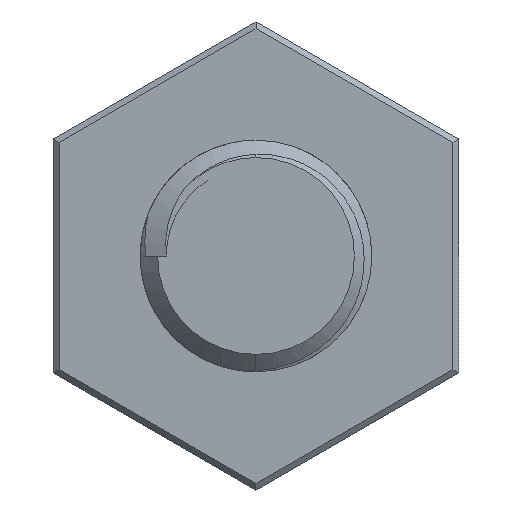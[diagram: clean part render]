
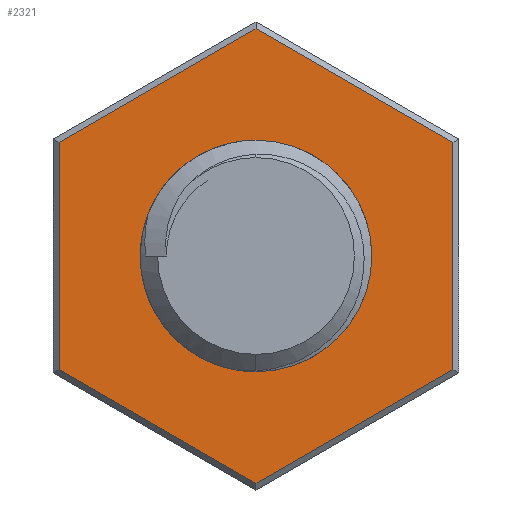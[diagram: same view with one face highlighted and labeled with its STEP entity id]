
A CAD part, front view. The second image highlights one B-rep face of the part: STEP entity #2321.
In plain terms, the highlighted planar face has unit normal (0, -1, 0).
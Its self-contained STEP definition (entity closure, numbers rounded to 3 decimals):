
#200 = DIRECTION ( 'NONE',  ( 0.866, 0., 0.5 ) ) ;
#201 = VECTOR ( 'NONE', #200, 1000. ) ;
#212 = CARTESIAN_POINT ( 'NONE',  ( 3.45, -2.5, -1.934 ) ) ;
#253 = CARTESIAN_POINT ( 'NONE',  ( 0., -2.5, -3.926 ) ) ;
#255 = DIRECTION ( 'NONE',  ( -0.866, 0., 0.5 ) ) ;
#256 = VECTOR ( 'NONE', #255, 1000. ) ;
#257 = CARTESIAN_POINT ( 'NONE',  ( -0.05, -2.5, 3.955 ) ) ;
#258 = LINE ( 'NONE', #257, #256 ) ;
#261 = DIRECTION ( 'NONE',  ( 0.866, 0., -0.5 ) ) ;
#264 = VECTOR ( 'NONE', #261, 1000. ) ;
#265 = CARTESIAN_POINT ( 'NONE',  ( 0.05, -2.5, -3.955 ) ) ;
#266 = LINE ( 'NONE', #265, #264 ) ;
#281 = CARTESIAN_POINT ( 'NONE',  ( 0., -2.5, -1.75 ) ) ;
#304 = LINE ( 'NONE', #212, #201 ) ;
#333 = CARTESIAN_POINT ( 'NONE',  ( 3.4, -2.5, -1.963 ) ) ;
#424 = DIRECTION ( 'NONE',  ( -0.866, 0., -0.5 ) ) ;
#425 = VECTOR ( 'NONE', #424, 1000. ) ;
#426 = CARTESIAN_POINT ( 'NONE',  ( -3.45, -2.5, 1.934 ) ) ;
#427 = LINE ( 'NONE', #426, #425 ) ;
#428 = CARTESIAN_POINT ( 'NONE',  ( -3.4, -2.5, -1.963 ) ) ;
#429 = DIRECTION ( 'NONE',  ( 0., 0., -1. ) ) ;
#430 = DIRECTION ( 'NONE',  ( 0., 1., 0. ) ) ;
#431 = CARTESIAN_POINT ( 'NONE',  ( 0., -2.5, 0. ) ) ;
#432 = AXIS2_PLACEMENT_3D ( 'NONE', #431, #430, #429 ) ;
#433 = CIRCLE ( 'NONE', #432, 1.75 ) ;
#434 = DIRECTION ( 'NONE',  ( 0., 0., -1. ) ) ;
#435 = VECTOR ( 'NONE', #434, 1000. ) ;
#436 = CARTESIAN_POINT ( 'NONE',  ( -3.4, -2.5, -2.021 ) ) ;
#437 = CARTESIAN_POINT ( 'NONE',  ( -3.4, -2.5, 1.963 ) ) ;
#447 = CARTESIAN_POINT ( 'NONE',  ( 0., -2.5, 3.926 ) ) ;
#458 = DIRECTION ( 'NONE',  ( 0., 0., 1. ) ) ;
#459 = VECTOR ( 'NONE', #458, 1000. ) ;
#460 = CARTESIAN_POINT ( 'NONE',  ( 3.4, -2.5, 2.021 ) ) ;
#467 = LINE ( 'NONE', #460, #459 ) ;
#521 = LINE ( 'NONE', #436, #435 ) ;
#1123 = CARTESIAN_POINT ( 'NONE',  ( 3.4, -2.5, 1.963 ) ) ;
#1415 = FACE_OUTER_BOUND ( 'NONE', #2073, .T. ) ;
#1416 = AXIS2_PLACEMENT_3D ( 'NONE', #1525, #1442, #1441 ) ;
#1418 = PLANE ( 'NONE',  #1416 ) ;
#1420 = FACE_BOUND ( 'NONE', #2180, .T. ) ;
#1441 = DIRECTION ( 'NONE',  ( 0., 0., -1. ) ) ;
#1442 = DIRECTION ( 'NONE',  ( 0., -1., 0. ) ) ;
#1525 = CARTESIAN_POINT ( 'NONE',  ( 0., -2.5, 4.041 ) ) ;
#1856 = EDGE_CURVE ( 'NONE', #2015, #1857, #2947, .T. ) ;
#1857 = VERTEX_POINT ( 'NONE', #2906 ) ;
#1906 = ORIENTED_EDGE ( 'NONE', *, *, #2056, .T. ) ;
#2015 = VERTEX_POINT ( 'NONE', #281 ) ;
#2053 = ORIENTED_EDGE ( 'NONE', *, *, #2055, .T. ) ;
#2054 = ORIENTED_EDGE ( 'NONE', *, *, #2163, .T. ) ;
#2055 = EDGE_CURVE ( 'NONE', #2172, #2061, #266, .T. ) ;
#2056 = EDGE_CURVE ( 'NONE', #2296, #2183, #258, .T. ) ;
#2061 = VERTEX_POINT ( 'NONE', #253 ) ;
#2062 = VERTEX_POINT ( 'NONE', #333 ) ;
#2073 = EDGE_LOOP ( 'NONE', ( #2185, #2297, #1906, #2178, #2054, #2053 ) ) ;
#2077 = EDGE_CURVE ( 'NONE', #2061, #2062, #304, .T. ) ;
#2163 = EDGE_CURVE ( 'NONE', #2179, #2172, #521, .T. ) ;
#2165 = ORIENTED_EDGE ( 'NONE', *, *, #1856, .T. ) ;
#2168 = EDGE_CURVE ( 'NONE', #1857, #2015, #433, .T. ) ;
#2170 = EDGE_CURVE ( 'NONE', #2183, #2179, #427, .T. ) ;
#2172 = VERTEX_POINT ( 'NONE', #428 ) ;
#2173 = ORIENTED_EDGE ( 'NONE', *, *, #2168, .T. ) ;
#2178 = ORIENTED_EDGE ( 'NONE', *, *, #2170, .T. ) ;
#2179 = VERTEX_POINT ( 'NONE', #437 ) ;
#2180 = EDGE_LOOP ( 'NONE', ( #2165, #2173 ) ) ;
#2183 = VERTEX_POINT ( 'NONE', #447 ) ;
#2185 = ORIENTED_EDGE ( 'NONE', *, *, #2077, .T. ) ;
#2186 = EDGE_CURVE ( 'NONE', #2062, #2296, #467, .T. ) ;
#2296 = VERTEX_POINT ( 'NONE', #1123 ) ;
#2297 = ORIENTED_EDGE ( 'NONE', *, *, #2186, .T. ) ;
#2321 = ADVANCED_FACE ( 'NONE', ( #1415, #1420 ), #1418, .T. ) ;
#2903 = DIRECTION ( 'NONE',  ( 0., 0., -1. ) ) ;
#2904 = DIRECTION ( 'NONE',  ( 0., 1., 0. ) ) ;
#2906 = CARTESIAN_POINT ( 'NONE',  ( 0., -2.5, 1.75 ) ) ;
#2909 = CARTESIAN_POINT ( 'NONE',  ( 0., -2.5, 0. ) ) ;
#2947 = CIRCLE ( 'NONE', #2954, 1.75 ) ;
#2954 = AXIS2_PLACEMENT_3D ( 'NONE', #2909, #2904, #2903 ) ;
